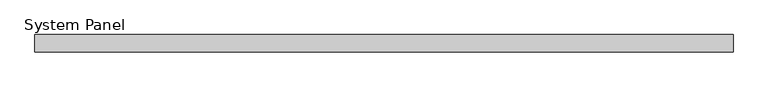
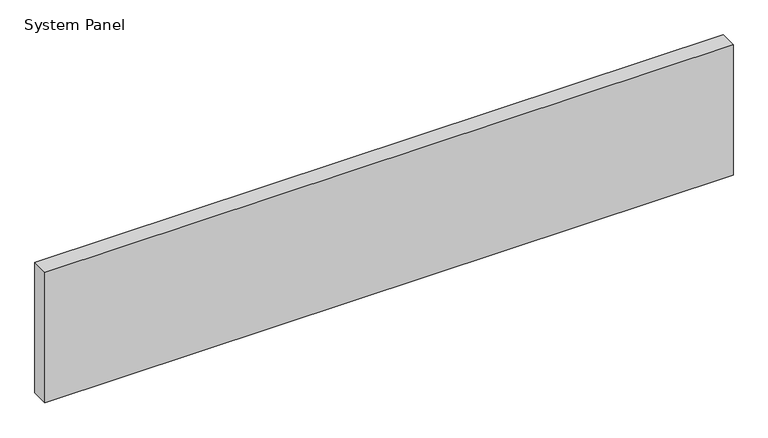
"""IFC4 building model written with IfcOpenShell, lengths in millimetres: plate geometry, System Panel : Equitilt 150mm Horizontal - Plain RHEA - MW."""

from ifc_helpers import new_model, si_unit, origin, origin_with_axes, place, context, project, spatial, polyline, outline, extrude, source, transform, mapped, element, save


def system_panel_573d2014(model_context):
    return source(origin(), model_context, "Body", "SweptSolid", [
        extrude(outline(polyline([(2990.0, -150.0), (-2990.0, -150.0), (-2990.0, 0.0), (2990.0, 0.0), (2990.0, -150.0)])), origin_with_axes(), (0.0, 0.0, 1.0), 1200.0),
    ])


if __name__ == "__main__":
    model = new_model("IFC4")
    model_context = context("Model", 3, world=origin())
    ifc_project = project(units=[si_unit("LENGTHUNIT", "METRE", prefix="MILLI")], contexts=[model_context])
    site = spatial("IfcSite", under=ifc_project)
    building = spatial("IfcBuilding", under=site)
    placement = place(None, origin())
    system_panel_shape = system_panel_573d2014(model_context)
    element("IfcPlate", 1, ObjectType="System Panel : Equitilt 150mm Horizontal - Plain RHEA - MW", at=placement, inside=building, context=model_context, shape_type="MappedRepresentation", body=[
        mapped(system_panel_shape, transform((0.0, 0.0, 0.0), x_axis=(1.0, 0.0, 0.0), y_axis=(0.0, 1.0, 0.0), z_axis=(0.0, 0.0, 1.0))),
    ])
    save(model, "model.ifc")
